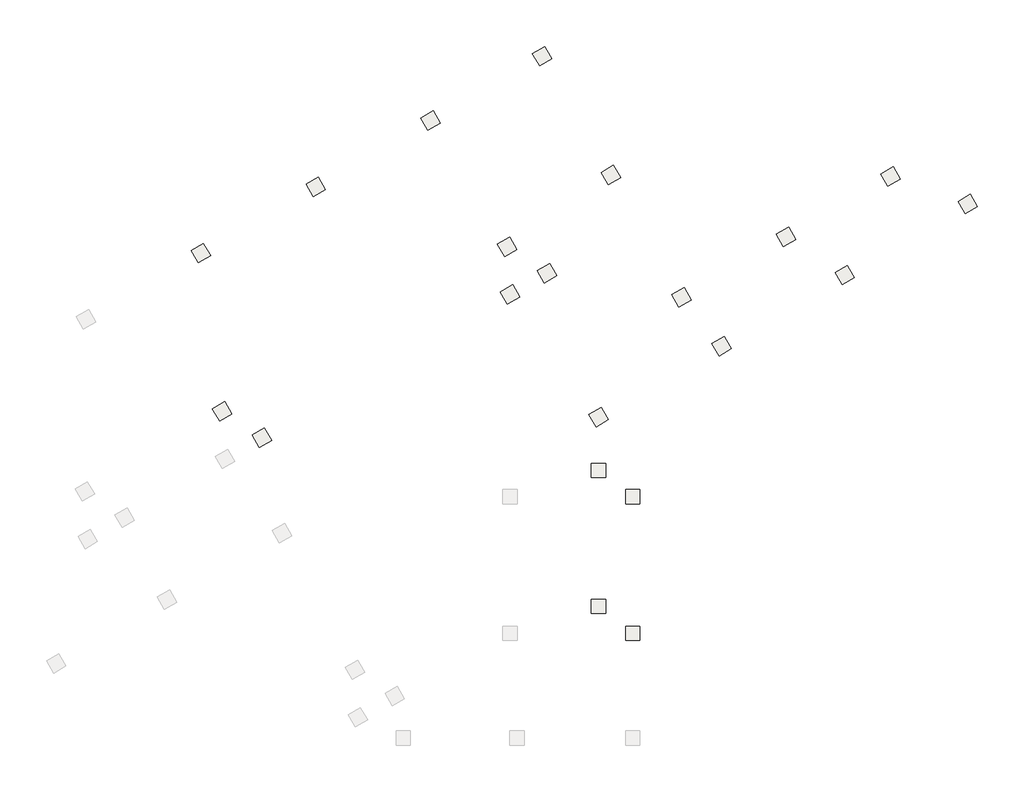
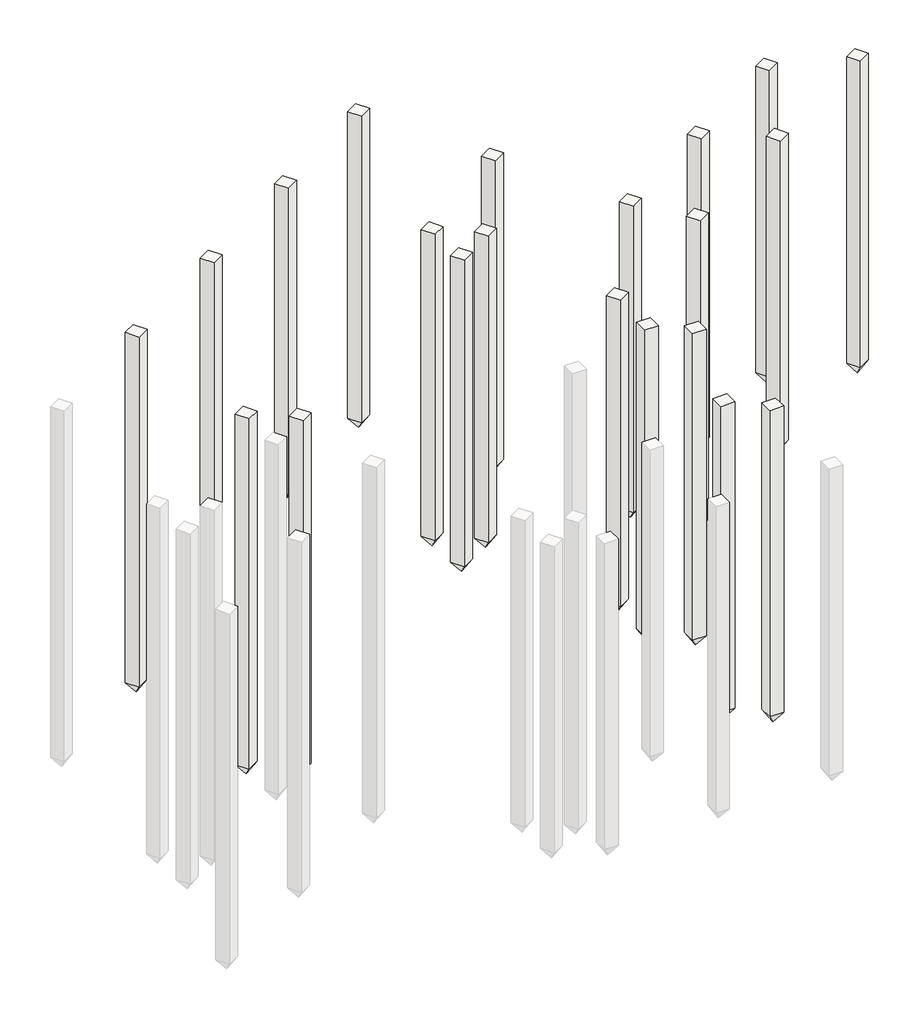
# One storey, part 2 of 2: 21 slabs.
"""IFC4 building model written with IfcOpenShell, lengths in millimetres."""

from ifc_helpers import new_model, si_unit, origin, place, context, project, spatial, faceted_brep, element, save

model = new_model("IFC4")

# Units and contexts
model_context = context("Model", 3, world=origin())
ifc_project = project(units=[si_unit("LENGTHUNIT", "METRE", prefix="MILLI")], contexts=[model_context])

# Site, building, storey
site = spatial("IfcSite", under=ifc_project)
building = spatial("IfcBuilding", under=site)
storey = spatial("IfcBuildingStorey", under=building, Name="КЖм.-2.150 (Верх свай 2)", Elevation=-2150.0)

# Slabs
placement = place(None, origin())
element("IfcSlab", 1, ObjectType="Бетонная свая прямоугольного сечения : C70.30-8", at=placement, inside=storey, context=model_context, shape_type="Brep", body=[
    faceted_brep([(26957.5811737, 41804.325759, -2150.0), (26697.7735525, 41654.325759, -2150.0), (26847.7735525, 41394.5181379, -2150.0), (27107.5811737, 41544.5181379, -2150.0), (26957.5811737, 41804.325759, -2200.0), (26957.5811737, 41804.325759, -2300.0), (26957.5811737, 41804.325759, -9150.0), (26697.7735525, 41654.325759, -9150.0), (26697.7735525, 41654.325759, -2300.0), (26697.7735525, 41654.325759, -2200.0), (26847.7735525, 41394.5181379, -9150.0), (26847.7735525, 41394.5181379, -2300.0), (26847.7735525, 41394.5181379, -2200.0), (27107.5811737, 41544.5181379, -9150.0), (27107.5811737, 41544.5181379, -2300.0), (27107.5811737, 41544.5181379, -2200.0), (26902.8531893, 41599.962531, -9400.0), (26903.2531893, 41599.2697106, -9400.0), (26902.560369, 41598.8697106, -9400.0), (26902.160369, 41599.562531, -9400.0)], [[[0, 1, 2, 3]], [[1, 0, 4, 5, 6, 7, 8, 9]], [[2, 1, 9, 8, 7, 10, 11, 12]], [[3, 2, 12, 11, 10, 13, 14, 15]], [[0, 3, 15, 14, 13, 6, 5, 4]], [[16, 17, 18, 19]], [[17, 16, 6, 13]], [[18, 17, 13, 10]], [[19, 18, 10, 7]], [[16, 19, 7, 6]]]),
])
element("IfcSlab", 2, ObjectType="Бетонная свая прямоугольного сечения : C70.30-8", at=placement, inside=storey, context=model_context, shape_type="Brep", body=[
    faceted_brep([(29382.1975403, 43204.7669277, -2150.0), (29122.3899192, 43054.7669277, -2150.0), (29272.3899192, 42794.9593065, -2150.0), (29532.1975403, 42944.9593065, -2150.0), (29382.1975403, 43204.7669277, -2200.0), (29382.1975403, 43204.7669277, -2300.0), (29382.1975403, 43204.7669277, -9150.0), (29122.3899192, 43054.7669277, -9150.0), (29122.3899192, 43054.7669277, -2300.0), (29122.3899192, 43054.7669277, -2200.0), (29272.3899192, 42794.9593065, -9150.0), (29272.3899192, 42794.9593065, -2300.0), (29272.3899192, 42794.9593065, -2200.0), (29532.1975403, 42944.9593065, -9150.0), (29532.1975403, 42944.9593065, -2300.0), (29532.1975403, 42944.9593065, -2200.0), (29327.469556, 43000.4036996, -9400.0), (29327.869556, 42999.7108793, -9400.0), (29327.1767357, 42999.3108793, -9400.0), (29326.7767357, 43000.0036996, -9400.0)], [[[0, 1, 2, 3]], [[1, 0, 4, 5, 6, 7, 8, 9]], [[2, 1, 9, 8, 7, 10, 11, 12]], [[3, 2, 12, 11, 10, 13, 14, 15]], [[0, 3, 15, 14, 13, 6, 5, 4]], [[16, 17, 18, 19]], [[17, 16, 6, 13]], [[18, 17, 13, 10]], [[19, 18, 10, 7]], [[16, 19, 7, 6]]]),
])
element("IfcSlab", 3, ObjectType="Бетонная свая прямоугольного сечения : C70.30-8", at=placement, inside=storey, context=model_context, shape_type="Brep", body=[
    faceted_brep([(31738.3763693, 44563.7833289, -2150.0), (31478.5687481, 44413.7833289, -2150.0), (31628.5687481, 44153.9757078, -2150.0), (31888.3763693, 44303.9757078, -2150.0), (31738.3763693, 44563.7833289, -2200.0), (31738.3763693, 44563.7833289, -2300.0), (31738.3763693, 44563.7833289, -9150.0), (31478.5687481, 44413.7833289, -9150.0), (31478.5687481, 44413.7833289, -2300.0), (31478.5687481, 44413.7833289, -2200.0), (31628.5687481, 44153.9757078, -9150.0), (31628.5687481, 44153.9757078, -2300.0), (31628.5687481, 44153.9757078, -2200.0), (31888.3763693, 44303.9757078, -9150.0), (31888.3763693, 44303.9757078, -2300.0), (31888.3763693, 44303.9757078, -2200.0), (31683.6483849, 44359.4201009, -9400.0), (31684.0483849, 44358.7272805, -9400.0), (31683.3555646, 44358.3272805, -9400.0), (31682.9555646, 44359.0201009, -9400.0)], [[[0, 1, 2, 3]], [[1, 0, 4, 5, 6, 7, 8, 9]], [[2, 1, 9, 8, 7, 10, 11, 12]], [[3, 2, 12, 11, 10, 13, 14, 15]], [[0, 3, 15, 14, 13, 6, 5, 4]], [[16, 17, 18, 19]], [[17, 16, 6, 13]], [[18, 17, 13, 10]], [[19, 18, 10, 7]], [[16, 19, 7, 6]]]),
])
element("IfcSlab", 4, ObjectType="Бетонная свая прямоугольного сечения : C70.30-8", at=placement, inside=storey, context=model_context, shape_type="Brep", body=[
    faceted_brep([(30999.5783727, 40534.320229, -2150.0), (30739.7707516, 40384.320229, -2150.0), (30889.7707516, 40124.5126079, -2150.0), (31149.5783727, 40274.5126079, -2150.0), (30999.5783727, 40534.320229, -2200.0), (30999.5783727, 40534.320229, -2300.0), (30999.5783727, 40534.320229, -9150.0), (30739.7707516, 40384.320229, -9150.0), (30739.7707516, 40384.320229, -2300.0), (30739.7707516, 40384.320229, -2200.0), (30889.7707516, 40124.5126079, -9150.0), (30889.7707516, 40124.5126079, -2300.0), (30889.7707516, 40124.5126079, -2200.0), (31149.5783727, 40274.5126079, -9150.0), (31149.5783727, 40274.5126079, -2300.0), (31149.5783727, 40274.5126079, -2200.0), (30944.8503883, 40329.957001, -9400.0), (30945.2503883, 40329.2641806, -9400.0), (30944.557568, 40328.8641806, -9400.0), (30944.157568, 40329.557001, -9400.0)], [[[0, 1, 2, 3]], [[1, 0, 4, 5, 6, 7, 8, 9]], [[2, 1, 9, 8, 7, 10, 11, 12]], [[3, 2, 12, 11, 10, 13, 14, 15]], [[0, 3, 15, 14, 13, 6, 5, 4]], [[16, 17, 18, 19]], [[17, 16, 6, 13]], [[18, 17, 13, 10]], [[19, 18, 10, 7]], [[16, 19, 7, 6]]]),
])
element("IfcSlab", 5, ObjectType="Бетонная свая прямоугольного сечения : C70.30-8", at=placement, inside=storey, context=model_context, shape_type="Brep", body=[
    faceted_brep([(31059.9518049, 39529.9024621, -2150.0), (30800.1441838, 39379.9024621, -2150.0), (30950.1441838, 39120.094841, -2150.0), (31209.9518049, 39270.094841, -2150.0), (31059.9518049, 39529.9024621, -2200.0), (31059.9518049, 39529.9024621, -2300.0), (31059.9518049, 39529.9024621, -9150.0), (30800.1441838, 39379.9024621, -9150.0), (30800.1441838, 39379.9024621, -2300.0), (30800.1441838, 39379.9024621, -2200.0), (30950.1441838, 39120.094841, -9150.0), (30950.1441838, 39120.094841, -2300.0), (30950.1441838, 39120.094841, -2200.0), (31209.9518049, 39270.094841, -9150.0), (31209.9518049, 39270.094841, -2300.0), (31209.9518049, 39270.094841, -2200.0), (31005.2238206, 39325.539234, -9400.0), (31005.6238206, 39324.8464137, -9400.0), (31004.9310002, 39324.4464137, -9400.0), (31004.5310002, 39325.139234, -9400.0)], [[[0, 1, 2, 3]], [[1, 0, 4, 5, 6, 7, 8, 9]], [[2, 1, 9, 8, 7, 10, 11, 12]], [[3, 2, 12, 11, 10, 13, 14, 15]], [[0, 3, 15, 14, 13, 6, 5, 4]], [[16, 17, 18, 19]], [[17, 16, 6, 13]], [[18, 17, 13, 10]], [[19, 18, 10, 7]], [[16, 19, 7, 6]]]),
])
element("IfcSlab", 6, ObjectType="Бетонная свая прямоугольного сечения : C70.30-8", at=placement, inside=storey, context=model_context, shape_type="Brep", body=[
    faceted_brep([(31839.3366447, 39979.9683145, -2150.0), (31579.5290236, 39829.9683145, -2150.0), (31729.5290236, 39570.1606933, -2150.0), (31989.3366447, 39720.1606933, -2150.0), (31839.3366447, 39979.9683145, -2200.0), (31839.3366447, 39979.9683145, -2300.0), (31839.3366447, 39979.9683145, -9150.0), (31579.5290236, 39829.9683145, -9150.0), (31579.5290236, 39829.9683145, -2300.0), (31579.5290236, 39829.9683145, -2200.0), (31729.5290236, 39570.1606933, -9150.0), (31729.5290236, 39570.1606933, -2300.0), (31729.5290236, 39570.1606933, -2200.0), (31989.3366447, 39720.1606933, -9150.0), (31989.3366447, 39720.1606933, -2300.0), (31989.3366447, 39720.1606933, -2200.0), (31784.6086604, 39775.6050864, -9400.0), (31785.0086604, 39774.9122661, -9400.0), (31784.3158401, 39774.5122661, -9400.0), (31783.9158401, 39775.2050864, -9400.0)], [[[0, 1, 2, 3]], [[1, 0, 4, 5, 6, 7, 8, 9]], [[2, 1, 9, 8, 7, 10, 11, 12]], [[3, 2, 12, 11, 10, 13, 14, 15]], [[0, 3, 15, 14, 13, 6, 5, 4]], [[16, 17, 18, 19]], [[17, 16, 6, 13]], [[18, 17, 13, 10]], [[19, 18, 10, 7]], [[16, 19, 7, 6]]]),
])
element("IfcSlab", 7, ObjectType="Бетонная свая прямоугольного сечения : C70.30-8", at=placement, inside=storey, context=model_context, shape_type="Brep", body=[
    faceted_brep([(33188.8332958, 42052.57352, -2150.0), (32929.0256747, 41902.57352, -2150.0), (33079.0256747, 41642.7658989, -2150.0), (33338.8332958, 41792.7658989, -2150.0), (33188.8332958, 42052.57352, -2200.0), (33188.8332958, 42052.57352, -2300.0), (33188.8332958, 42052.57352, -9150.0), (32929.0256747, 41902.57352, -9150.0), (32929.0256747, 41902.57352, -2300.0), (32929.0256747, 41902.57352, -2200.0), (33079.0256747, 41642.7658989, -9150.0), (33079.0256747, 41642.7658989, -2300.0), (33079.0256747, 41642.7658989, -2200.0), (33338.8332958, 41792.7658989, -9150.0), (33338.8332958, 41792.7658989, -2300.0), (33338.8332958, 41792.7658989, -2200.0), (33134.1053115, 41848.210292, -9400.0), (33134.5053115, 41847.5174717, -9400.0), (33133.8124911, 41847.1174717, -9400.0), (33133.4124911, 41847.810292, -9400.0)], [[[0, 1, 2, 3]], [[1, 0, 4, 5, 6, 7, 8, 9]], [[2, 1, 9, 8, 7, 10, 11, 12]], [[3, 2, 12, 11, 10, 13, 14, 15]], [[0, 3, 15, 14, 13, 6, 5, 4]], [[16, 17, 18, 19]], [[17, 16, 6, 13]], [[18, 17, 13, 10]], [[19, 18, 10, 7]], [[16, 19, 7, 6]]]),
])
element("IfcSlab", 8, ObjectType="Бетонная свая прямоугольного сечения : C70.30-8", at=placement, inside=storey, context=model_context, shape_type="Brep", body=[
    faceted_brep([(39095.0571654, 42022.5979226, -2150.0), (38835.2495443, 41872.5979226, -2150.0), (38985.2495443, 41612.7903015, -2150.0), (39245.0571654, 41762.7903015, -2150.0), (39095.0571654, 42022.5979226, -2200.0), (39095.0571654, 42022.5979226, -2300.0), (39095.0571654, 42022.5979226, -9150.0), (38835.2495443, 41872.5979226, -9150.0), (38835.2495443, 41872.5979226, -2300.0), (38835.2495443, 41872.5979226, -2200.0), (38985.2495443, 41612.7903015, -9150.0), (38985.2495443, 41612.7903015, -2300.0), (38985.2495443, 41612.7903015, -2200.0), (39245.0571654, 41762.7903015, -9150.0), (39245.0571654, 41762.7903015, -2300.0), (39245.0571654, 41762.7903015, -2200.0), (39040.329181, 41818.2346945, -9400.0), (39040.729181, 41817.5418742, -9400.0), (39040.0363607, 41817.1418742, -9400.0), (39039.6363607, 41817.8346945, -9400.0)], [[[0, 1, 2, 3]], [[1, 0, 4, 5, 6, 7, 8, 9]], [[2, 1, 9, 8, 7, 10, 11, 12]], [[3, 2, 12, 11, 10, 13, 14, 15]], [[0, 3, 15, 14, 13, 6, 5, 4]], [[16, 17, 18, 19]], [[17, 16, 6, 13]], [[18, 17, 13, 10]], [[19, 18, 10, 7]], [[16, 19, 7, 6]]]),
])
element("IfcSlab", 9, ObjectType="Бетонная свая прямоугольного сечения : C70.30-8", at=placement, inside=storey, context=model_context, shape_type="Brep", body=[
    faceted_brep([(40724.8639644, 41439.9101674, -2150.0), (40465.0563433, 41289.9101674, -2150.0), (40615.0563433, 41030.1025463, -2150.0), (40874.8639644, 41180.1025463, -2150.0), (40724.8639644, 41439.9101674, -2200.0), (40724.8639644, 41439.9101674, -2300.0), (40724.8639644, 41439.9101674, -9150.0), (40465.0563433, 41289.9101674, -9150.0), (40465.0563433, 41289.9101674, -2300.0), (40465.0563433, 41289.9101674, -2200.0), (40615.0563433, 41030.1025463, -9150.0), (40615.0563433, 41030.1025463, -2300.0), (40615.0563433, 41030.1025463, -2200.0), (40874.8639644, 41180.1025463, -9150.0), (40874.8639644, 41180.1025463, -2300.0), (40874.8639644, 41180.1025463, -2200.0), (40670.13598, 41235.5469394, -9400.0), (40670.53598, 41234.8541191, -9400.0), (40669.8431597, 41234.4541191, -9400.0), (40669.4431597, 41235.1469394, -9400.0)], [[[0, 1, 2, 3]], [[1, 0, 4, 5, 6, 7, 8, 9]], [[2, 1, 9, 8, 7, 10, 11, 12]], [[3, 2, 12, 11, 10, 13, 14, 15]], [[0, 3, 15, 14, 13, 6, 5, 4]], [[16, 17, 18, 19]], [[17, 16, 6, 13]], [[18, 17, 13, 10]], [[19, 18, 10, 7]], [[16, 19, 7, 6]]]),
])
element("IfcSlab", 10, ObjectType="Бетонная свая прямоугольного сечения : C70.30-8", at=placement, inside=storey, context=model_context, shape_type="Brep", body=[
    faceted_brep([(38127.0607131, 39939.437486, -2150.0), (37867.253092, 39789.437486, -2150.0), (38017.253092, 39529.6298649, -2150.0), (38277.0607131, 39679.6298649, -2150.0), (38127.0607131, 39939.437486, -2200.0), (38127.0607131, 39939.437486, -2300.0), (38127.0607131, 39939.437486, -9150.0), (37867.253092, 39789.437486, -9150.0), (37867.253092, 39789.437486, -2300.0), (37867.253092, 39789.437486, -2200.0), (38017.253092, 39529.6298649, -9150.0), (38017.253092, 39529.6298649, -2300.0), (38017.253092, 39529.6298649, -2200.0), (38277.0607131, 39679.6298649, -9150.0), (38277.0607131, 39679.6298649, -2300.0), (38277.0607131, 39679.6298649, -2200.0), (38072.3327288, 39735.074258, -9400.0), (38072.7327288, 39734.3814376, -9400.0), (38072.0399085, 39733.9814376, -9400.0), (38071.6399085, 39734.674258, -9400.0)], [[[0, 1, 2, 3]], [[1, 0, 4, 5, 6, 7, 8, 9]], [[2, 1, 9, 8, 7, 10, 11, 12]], [[3, 2, 12, 11, 10, 13, 14, 15]], [[0, 3, 15, 14, 13, 6, 5, 4]], [[16, 17, 18, 19]], [[17, 16, 6, 13]], [[18, 17, 13, 10]], [[19, 18, 10, 7]], [[16, 19, 7, 6]]]),
])
element("IfcSlab", 11, ObjectType="Бетонная свая прямоугольного сечения : C70.30-8", at=placement, inside=storey, context=model_context, shape_type="Brep", body=[
    faceted_brep([(35529.2574619, 38438.9648046, -2150.0), (35269.4498407, 38288.9648046, -2150.0), (35419.4498407, 38029.1571834, -2150.0), (35679.2574619, 38179.1571834, -2150.0), (35529.2574619, 38438.9648046, -2200.0), (35529.2574619, 38438.9648046, -2300.0), (35529.2574619, 38438.9648046, -9150.0), (35269.4498407, 38288.9648046, -9150.0), (35269.4498407, 38288.9648046, -2300.0), (35269.4498407, 38288.9648046, -2200.0), (35419.4498407, 38029.1571834, -9150.0), (35419.4498407, 38029.1571834, -2300.0), (35419.4498407, 38029.1571834, -2200.0), (35679.2574619, 38179.1571834, -9150.0), (35679.2574619, 38179.1571834, -2300.0), (35679.2574619, 38179.1571834, -2200.0), (35474.5294775, 38234.6015765, -9400.0), (35474.9294775, 38233.9087562, -9400.0), (35474.2366572, 38233.5087562, -9400.0), (35473.8366572, 38234.2015765, -9400.0)], [[[0, 1, 2, 3]], [[1, 0, 4, 5, 6, 7, 8, 9]], [[2, 1, 9, 8, 7, 10, 11, 12]], [[3, 2, 12, 11, 10, 13, 14, 15]], [[0, 3, 15, 14, 13, 6, 5, 4]], [[16, 17, 18, 19]], [[17, 16, 6, 13]], [[18, 17, 13, 10]], [[19, 18, 10, 7]], [[16, 19, 7, 6]]]),
])
element("IfcSlab", 12, ObjectType="Бетонная свая прямоугольного сечения : C70.30-8", at=placement, inside=storey, context=model_context, shape_type="Brep", body=[
    faceted_brep([(34678.7916371, 39471.7943635, -2150.0), (34418.9840159, 39321.7943635, -2150.0), (34568.9840159, 39061.9867423, -2150.0), (34828.7916371, 39211.9867423, -2150.0), (34678.7916371, 39471.7943635, -2200.0), (34678.7916371, 39471.7943635, -2300.0), (34678.7916371, 39471.7943635, -9150.0), (34418.9840159, 39321.7943635, -9150.0), (34418.9840159, 39321.7943635, -2300.0), (34418.9840159, 39321.7943635, -2200.0), (34568.9840159, 39061.9867423, -9150.0), (34568.9840159, 39061.9867423, -2300.0), (34568.9840159, 39061.9867423, -2200.0), (34828.7916371, 39211.9867423, -9150.0), (34828.7916371, 39211.9867423, -2300.0), (34828.7916371, 39211.9867423, -2200.0), (34624.0636527, 39267.4311354, -9400.0), (34624.4636527, 39266.7383151, -9400.0), (34623.7708324, 39266.3383151, -9400.0), (34623.3708324, 39267.0311354, -9400.0)], [[[0, 1, 2, 3]], [[1, 0, 4, 5, 6, 7, 8, 9]], [[2, 1, 9, 8, 7, 10, 11, 12]], [[3, 2, 12, 11, 10, 13, 14, 15]], [[0, 3, 15, 14, 13, 6, 5, 4]], [[16, 17, 18, 19]], [[17, 16, 6, 13]], [[18, 17, 13, 10]], [[19, 18, 10, 7]], [[16, 19, 7, 6]]]),
])
element("IfcSlab", 13, ObjectType="Бетонная свая прямоугольного сечения : C70.30-8", at=placement, inside=storey, context=model_context, shape_type="Brep", body=[
    faceted_brep([(36886.9244018, 40747.1961434, -2150.0), (36627.1167807, 40597.1961434, -2150.0), (36777.1167807, 40337.3885222, -2150.0), (37036.9244018, 40487.3885222, -2150.0), (36886.9244018, 40747.1961434, -2200.0), (36886.9244018, 40747.1961434, -2300.0), (36886.9244018, 40747.1961434, -9150.0), (36627.1167807, 40597.1961434, -9150.0), (36627.1167807, 40597.1961434, -2300.0), (36627.1167807, 40597.1961434, -2200.0), (36777.1167807, 40337.3885222, -9150.0), (36777.1167807, 40337.3885222, -2300.0), (36777.1167807, 40337.3885222, -2200.0), (37036.9244018, 40487.3885222, -9150.0), (37036.9244018, 40487.3885222, -2300.0), (37036.9244018, 40487.3885222, -2200.0), (36832.1964175, 40542.8329153, -9400.0), (36832.5964175, 40542.140095, -9400.0), (36831.9035971, 40541.740095, -9400.0), (36831.5035971, 40542.4329153, -9400.0)], [[[0, 1, 2, 3]], [[1, 0, 4, 5, 6, 7, 8, 9]], [[2, 1, 9, 8, 7, 10, 11, 12]], [[3, 2, 12, 11, 10, 13, 14, 15]], [[0, 3, 15, 14, 13, 6, 5, 4]], [[16, 17, 18, 19]], [[17, 16, 6, 13]], [[18, 17, 13, 10]], [[19, 18, 10, 7]], [[16, 19, 7, 6]]]),
])
element("IfcSlab", 14, ObjectType="Бетонная свая прямоугольного сечения : C70.30-8", at=placement, inside=storey, context=model_context, shape_type="Brep", body=[
    faceted_brep([(32931.4542118, 36938.4921238, -2150.0), (32671.6465907, 36788.4921238, -2150.0), (32821.6465907, 36528.6845027, -2150.0), (33081.4542118, 36678.6845027, -2150.0), (32931.4542118, 36938.4921238, -2200.0), (32931.4542118, 36938.4921238, -2300.0), (32931.4542118, 36938.4921238, -9150.0), (32671.6465907, 36788.4921238, -9150.0), (32671.6465907, 36788.4921238, -2300.0), (32671.6465907, 36788.4921238, -2200.0), (32821.6465907, 36528.6845027, -9150.0), (32821.6465907, 36528.6845027, -2300.0), (32821.6465907, 36528.6845027, -2200.0), (33081.4542118, 36678.6845027, -9150.0), (33081.4542118, 36678.6845027, -2300.0), (33081.4542118, 36678.6845027, -2200.0), (32876.7262274, 36734.1288958, -9400.0), (32877.1262274, 36733.4360754, -9400.0), (32876.4334071, 36733.0360754, -9400.0), (32876.0334071, 36733.7288958, -9400.0)], [[[0, 1, 2, 3]], [[1, 0, 4, 5, 6, 7, 8, 9]], [[2, 1, 9, 8, 7, 10, 11, 12]], [[3, 2, 12, 11, 10, 13, 14, 15]], [[0, 3, 15, 14, 13, 6, 5, 4]], [[16, 17, 18, 19]], [[17, 16, 6, 13]], [[18, 17, 13, 10]], [[19, 18, 10, 7]], [[16, 19, 7, 6]]]),
])
element("IfcSlab", 15, ObjectType="Бетонная свая прямоугольного сечения : C70.30-8", at=placement, inside=storey, context=model_context, shape_type="Brep", body=[
    faceted_brep([(33748.2055602, 32314.4779357, -2150.0), (33448.2055602, 32314.4779357, -2150.0), (33448.2055602, 32014.4779357, -2150.0), (33748.2055602, 32014.4779357, -2150.0), (33748.2055602, 32314.4779357, -2200.0), (33748.2055602, 32314.4779357, -2300.0), (33748.2055602, 32314.4779357, -9150.0), (33448.2055602, 32314.4779357, -9150.0), (33448.2055602, 32314.4779357, -2300.0), (33448.2055602, 32314.4779357, -2200.0), (33448.2055602, 32014.4779357, -9150.0), (33448.2055602, 32014.4779357, -2300.0), (33448.2055602, 32014.4779357, -2200.0), (33748.2055602, 32014.4779357, -9150.0), (33748.2055602, 32014.4779357, -2300.0), (33748.2055602, 32014.4779357, -2200.0), (33598.6281215, 32164.8581808, -9400.0), (33598.6281215, 32164.0581808, -9400.0), (33597.8281215, 32164.0581808, -9400.0), (33597.8281215, 32164.8581808, -9400.0)], [[[0, 1, 2, 3]], [[1, 0, 4, 5, 6, 7, 8, 9]], [[2, 1, 9, 8, 7, 10, 11, 12]], [[3, 2, 12, 11, 10, 13, 14, 15]], [[0, 3, 15, 14, 13, 6, 5, 4]], [[16, 17, 18, 19]], [[17, 16, 6, 13]], [[18, 17, 13, 10]], [[19, 18, 10, 7]], [[16, 19, 7, 6]]]),
])
element("IfcSlab", 16, ObjectType="Бетонная свая прямоугольного сечения : C70.30-8", at=placement, inside=storey, context=model_context, shape_type="Brep", body=[
    faceted_brep([(33023.0508774, 32884.4353739, -2150.0), (32723.0508774, 32884.4353739, -2150.0), (32723.0508774, 32584.4353739, -2150.0), (33023.0508774, 32584.4353739, -2150.0), (33023.0508774, 32884.4353739, -2200.0), (33023.0508774, 32884.4353739, -2300.0), (33023.0508774, 32884.4353739, -9150.0), (32723.0508774, 32884.4353739, -9150.0), (32723.0508774, 32884.4353739, -2300.0), (32723.0508774, 32884.4353739, -2200.0), (32723.0508774, 32584.4353739, -9150.0), (32723.0508774, 32584.4353739, -2300.0), (32723.0508774, 32584.4353739, -2200.0), (33023.0508774, 32584.4353739, -9150.0), (33023.0508774, 32584.4353739, -2300.0), (33023.0508774, 32584.4353739, -2200.0), (32873.4734386, 32734.815619, -9400.0), (32873.4734386, 32734.015619, -9400.0), (32872.6734386, 32734.015619, -9400.0), (32872.6734386, 32734.815619, -9400.0)], [[[0, 1, 2, 3]], [[1, 0, 4, 5, 6, 7, 8, 9]], [[2, 1, 9, 8, 7, 10, 11, 12]], [[3, 2, 12, 11, 10, 13, 14, 15]], [[0, 3, 15, 14, 13, 6, 5, 4]], [[16, 17, 18, 19]], [[17, 16, 6, 13]], [[18, 17, 13, 10]], [[19, 18, 10, 7]], [[16, 19, 7, 6]]]),
])
element("IfcSlab", 17, ObjectType="Бетонная свая прямоугольного сечения : C70.30-8", at=placement, inside=storey, context=model_context, shape_type="Brep", body=[
    faceted_brep([(33023.2050219, 35754.4785041, -2150.0), (32723.2050219, 35754.4785041, -2150.0), (32723.2050219, 35454.4785041, -2150.0), (33023.2050219, 35454.4785041, -2150.0), (33023.2050219, 35754.4785041, -2200.0), (33023.2050219, 35754.4785041, -2300.0), (33023.2050219, 35754.4785041, -9150.0), (32723.2050219, 35754.4785041, -9150.0), (32723.2050219, 35754.4785041, -2300.0), (32723.2050219, 35754.4785041, -2200.0), (32723.2050219, 35454.4785041, -9150.0), (32723.2050219, 35454.4785041, -2300.0), (32723.2050219, 35454.4785041, -2200.0), (33023.2050219, 35454.4785041, -9150.0), (33023.2050219, 35454.4785041, -2300.0), (33023.2050219, 35454.4785041, -2200.0), (32873.6275832, 35604.8587492, -9400.0), (32873.6275832, 35604.0587492, -9400.0), (32872.8275832, 35604.0587492, -9400.0), (32872.8275832, 35604.8587492, -9400.0)], [[[0, 1, 2, 3]], [[1, 0, 4, 5, 6, 7, 8, 9]], [[2, 1, 9, 8, 7, 10, 11, 12]], [[3, 2, 12, 11, 10, 13, 14, 15]], [[0, 3, 15, 14, 13, 6, 5, 4]], [[16, 17, 18, 19]], [[17, 16, 6, 13]], [[18, 17, 13, 10]], [[19, 18, 10, 7]], [[16, 19, 7, 6]]]),
])
element("IfcSlab", 18, ObjectType="Бетонная свая прямоугольного сечения : C70.30-8", at=placement, inside=storey, context=model_context, shape_type="Brep", body=[
    faceted_brep([(33748.2048339, 35204.1708635, -2150.0), (33448.2048339, 35204.1708635, -2150.0), (33448.2048339, 34904.1708635, -2150.0), (33748.2048339, 34904.1708635, -2150.0), (33748.2048339, 35204.1708635, -2200.0), (33748.2048339, 35204.1708635, -2300.0), (33748.2048339, 35204.1708635, -9150.0), (33448.2048339, 35204.1708635, -9150.0), (33448.2048339, 35204.1708635, -2300.0), (33448.2048339, 35204.1708635, -2200.0), (33448.2048339, 34904.1708635, -9150.0), (33448.2048339, 34904.1708635, -2300.0), (33448.2048339, 34904.1708635, -2200.0), (33748.2048339, 34904.1708635, -9150.0), (33748.2048339, 34904.1708635, -2300.0), (33748.2048339, 34904.1708635, -2200.0), (33598.6273952, 35054.5511086, -9400.0), (33598.6273952, 35053.7511086, -9400.0), (33597.8273952, 35053.7511086, -9400.0), (33597.8273952, 35054.5511086, -9400.0)], [[[0, 1, 2, 3]], [[1, 0, 4, 5, 6, 7, 8, 9]], [[2, 1, 9, 8, 7, 10, 11, 12]], [[3, 2, 12, 11, 10, 13, 14, 15]], [[0, 3, 15, 14, 13, 6, 5, 4]], [[16, 17, 18, 19]], [[17, 16, 6, 13]], [[18, 17, 13, 10]], [[19, 18, 10, 7]], [[16, 19, 7, 6]]]),
])
element("IfcSlab", 19, ObjectType="Бетонная свая прямоугольного сечения : C80.30-8", at=placement, inside=storey, context=model_context, shape_type="Brep", body=[
    faceted_brep([(25820.8188744, 36504.5043974, -2150.0), (25561.0112532, 36354.5043974, -2150.0), (25711.0112532, 36094.6967763, -2150.0), (25970.8188744, 36244.6967763, -2150.0), (25820.8188744, 36504.5043974, -2200.0), (25820.8188744, 36504.5043974, -2300.0), (25820.8188744, 36504.5043974, -10150.0), (25561.0112532, 36354.5043974, -10150.0), (25561.0112532, 36354.5043974, -2300.0), (25561.0112532, 36354.5043974, -2200.0), (25711.0112532, 36094.6967763, -10150.0), (25711.0112532, 36094.6967763, -2300.0), (25711.0112532, 36094.6967763, -2200.0), (25970.8188744, 36244.6967763, -10150.0), (25970.8188744, 36244.6967763, -2300.0), (25970.8188744, 36244.6967763, -2200.0), (25766.09089, 36300.1411694, -10400.0), (25766.49089, 36299.4483491, -10400.0), (25765.7980697, 36299.0483491, -10400.0), (25765.3980697, 36299.7411694, -10400.0)], [[[0, 1, 2, 3]], [[1, 0, 4, 5, 6, 7, 8, 9]], [[2, 1, 9, 8, 7, 10, 11, 12]], [[3, 2, 12, 11, 10, 13, 14, 15]], [[0, 3, 15, 14, 13, 6, 5, 4]], [[16, 17, 18, 19]], [[17, 16, 6, 13]], [[18, 17, 13, 10]], [[19, 18, 10, 7]], [[16, 19, 7, 6]]]),
])
element("IfcSlab", 20, ObjectType="Бетонная свая прямоугольного сечения : C80.30-8", at=placement, inside=storey, context=model_context, shape_type="Brep", body=[
    faceted_brep([(24981.0606024, 37058.856312, -2150.0), (24721.2529812, 36908.856312, -2150.0), (24871.2529812, 36649.0486909, -2150.0), (25131.0606024, 36799.0486909, -2150.0), (24981.0606024, 37058.856312, -2200.0), (24981.0606024, 37058.856312, -2300.0), (24981.0606024, 37058.856312, -10150.0), (24721.2529812, 36908.856312, -10150.0), (24721.2529812, 36908.856312, -2300.0), (24721.2529812, 36908.856312, -2200.0), (24871.2529812, 36649.0486909, -10150.0), (24871.2529812, 36649.0486909, -2300.0), (24871.2529812, 36649.0486909, -2200.0), (25131.0606024, 36799.0486909, -10150.0), (25131.0606024, 36799.0486909, -2300.0), (25131.0606024, 36799.0486909, -2200.0), (24926.332618, 36854.493084, -10400.0), (24926.732618, 36853.8002636, -10400.0), (24926.0397977, 36853.4002636, -10400.0), (24925.6397977, 36854.093084, -10400.0)], [[[0, 1, 2, 3]], [[1, 0, 4, 5, 6, 7, 8, 9]], [[2, 1, 9, 8, 7, 10, 11, 12]], [[3, 2, 12, 11, 10, 13, 14, 15]], [[0, 3, 15, 14, 13, 6, 5, 4]], [[16, 17, 18, 19]], [[17, 16, 6, 13]], [[18, 17, 13, 10]], [[19, 18, 10, 7]], [[16, 19, 7, 6]]]),
])
element("IfcSlab", 21, ObjectType="Бетонная свая прямоугольного сечения : C80.30-8", at=placement, inside=storey, context=model_context, shape_type="Brep", body=[
    faceted_brep([(24532.9648058, 40403.8845897, -2150.0), (24273.1571847, 40253.8845897, -2150.0), (24423.1571847, 39994.0769685, -2150.0), (24682.9648058, 40144.0769685, -2150.0), (24532.9648058, 40403.8845897, -2200.0), (24532.9648058, 40403.8845897, -2300.0), (24532.9648058, 40403.8845897, -10150.0), (24273.1571847, 40253.8845897, -10150.0), (24273.1571847, 40253.8845897, -2300.0), (24273.1571847, 40253.8845897, -2200.0), (24423.1571847, 39994.0769685, -10150.0), (24423.1571847, 39994.0769685, -2300.0), (24423.1571847, 39994.0769685, -2200.0), (24682.9648058, 40144.0769685, -10150.0), (24682.9648058, 40144.0769685, -2300.0), (24682.9648058, 40144.0769685, -2200.0), (24478.2368215, 40199.5213616, -10400.0), (24478.6368215, 40198.8285413, -10400.0), (24477.9440012, 40198.4285413, -10400.0), (24477.5440012, 40199.1213616, -10400.0)], [[[0, 1, 2, 3]], [[1, 0, 4, 5, 6, 7, 8, 9]], [[2, 1, 9, 8, 7, 10, 11, 12]], [[3, 2, 12, 11, 10, 13, 14, 15]], [[0, 3, 15, 14, 13, 6, 5, 4]], [[16, 17, 18, 19]], [[17, 16, 6, 13]], [[18, 17, 13, 10]], [[19, 18, 10, 7]], [[16, 19, 7, 6]]]),
])

save(model, "model.ifc")
